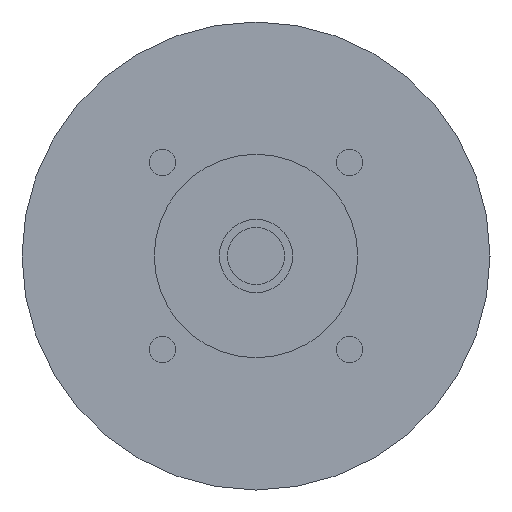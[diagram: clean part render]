
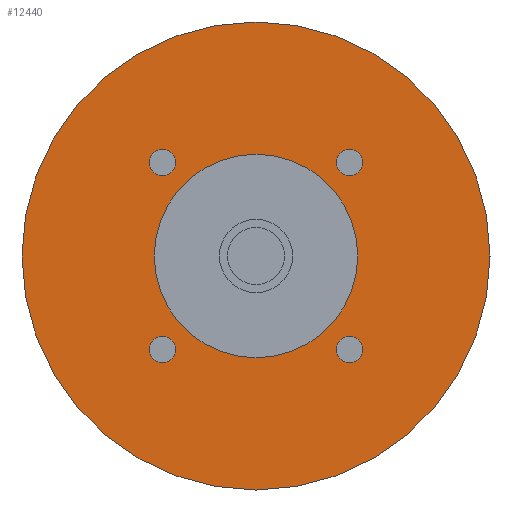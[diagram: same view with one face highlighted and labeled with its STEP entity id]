
A CAD part, left-side view. The second image highlights one B-rep face of the part: STEP entity #12440.
In plain terms, the highlighted planar face has unit normal (-1, 0, 0) as drawn and (0, 0, -1) by its records, which use the part's own axes.
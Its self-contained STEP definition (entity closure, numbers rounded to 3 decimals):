
#8840=CARTESIAN_POINT('',(57.5,0.,-47.401));
#8850=VERTEX_POINT('',#8840);
#8880=CARTESIAN_POINT('',(0.,0.,
-47.401));
#8890=DIRECTION('',(0.,0.,-1.));
#8900=DIRECTION('',(0.,-1.,0.));
#8910=AXIS2_PLACEMENT_3D('',#8880,#8890,#8900);
#8920=CIRCLE('',#8910,57.5);
#8930=CARTESIAN_POINT('',(0.,-57.5,-47.401));
#8940=VERTEX_POINT('',#8930);
#8950=EDGE_CURVE('',#8850,#8940,#8920,.T.);
#8970=CARTESIAN_POINT('',(-57.5,0.,-47.401));
#8980=VERTEX_POINT('',#8970);
#8990=EDGE_CURVE('',#8940,#8980,#8920,.T.);
#11410=CARTESIAN_POINT('',(22.981,19.731,-47.401));
#11420=VERTEX_POINT('',#11410);
#11450=CARTESIAN_POINT('',(22.981,22.981,-47.401));
#11460=DIRECTION('',(0.,0.,-1.));
#11470=DIRECTION('',(0.,1.,0.));
#11480=AXIS2_PLACEMENT_3D('',#11450,#11460,#11470);
#11490=CIRCLE('',#11480,3.25);
#11500=CARTESIAN_POINT('',(22.981,26.231,-47.401));
#11510=VERTEX_POINT('',#11500);
#11520=EDGE_CURVE('',#11510,#11420,#11490,.T.);
#11640=CARTESIAN_POINT('',(0.,0.,
-47.401));
#11650=DIRECTION('',(0.,0.,-1.));
#11660=DIRECTION('',(1.,0.,0.));
#11670=AXIS2_PLACEMENT_3D('',#11640,#11650,#11660);
#11680=PLANE('',#11670);
#11690=ORIENTED_EDGE('',*,*,#11520,.F.);
#11700=EDGE_CURVE('',#11420,#11510,#11490,.T.);
#11710=ORIENTED_EDGE('',*,*,#11700,.F.);
#11720=EDGE_LOOP('',(#11710,#11690));
#11730=FACE_BOUND('',#11720,.T.);
#11740=CARTESIAN_POINT('',(-22.981,22.981,-47.401));
#11750=DIRECTION('',(0.,0.,-1.));
#11760=DIRECTION('',(-1.,0.,0.));
#11770=AXIS2_PLACEMENT_3D('',#11740,#11750,#11760);
#11780=CIRCLE('',#11770,3.25);
#11790=CARTESIAN_POINT('',(-26.231,22.981,-47.401));
#11800=VERTEX_POINT('',#11790);
#11810=CARTESIAN_POINT('',(-19.731,22.981,-47.401));
#11820=VERTEX_POINT('',#11810);
#11830=EDGE_CURVE('',#11800,#11820,#11780,.T.);
#11840=ORIENTED_EDGE('',*,*,#11830,.F.);
#11850=EDGE_CURVE('',#11820,#11800,#11780,.T.);
#11860=ORIENTED_EDGE('',*,*,#11850,.F.);
#11870=EDGE_LOOP('',(#11860,#11840));
#11880=FACE_BOUND('',#11870,.T.);
#11890=CARTESIAN_POINT('',(-22.981,-22.981,-47.401))
;
#11900=DIRECTION('',(0.,0.,-1.));
#11910=DIRECTION('',(0.,-1.,0.));
#11920=AXIS2_PLACEMENT_3D('',#11890,#11900,#11910);
#11930=CIRCLE('',#11920,3.25);
#11940=CARTESIAN_POINT('',(-22.981,-26.231,-47.401))
;
#11950=VERTEX_POINT('',#11940);
#11960=CARTESIAN_POINT('',(-22.981,-19.731,-47.401))
;
#11970=VERTEX_POINT('',#11960);
#11980=EDGE_CURVE('',#11950,#11970,#11930,.T.);
#11990=ORIENTED_EDGE('',*,*,#11980,.F.);
#12000=EDGE_CURVE('',#11970,#11950,#11930,.T.);
#12010=ORIENTED_EDGE('',*,*,#12000,.F.);
#12020=EDGE_LOOP('',(#12010,#11990));
#12030=FACE_BOUND('',#12020,.T.);
#12040=CARTESIAN_POINT('',(0.,0.,
-47.401));
#12050=DIRECTION('',(0.,0.,1.));
#12060=DIRECTION('',(0.,1.,0.));
#12070=AXIS2_PLACEMENT_3D('',#12040,#12050,#12060);
#12080=CIRCLE('',#12070,25.);
#12090=CARTESIAN_POINT('',(-25.,0.,-47.401));
#12100=VERTEX_POINT('',#12090);
#12110=CARTESIAN_POINT('',(25.,0.,-47.401));
#12120=VERTEX_POINT('',#12110);
#12130=EDGE_CURVE('',#12100,#12120,#12080,.T.);
#12140=ORIENTED_EDGE('',*,*,#12130,.T.);
#12150=CARTESIAN_POINT('',(0.,25.,-47.401));
#12160=VERTEX_POINT('',#12150);
#12170=EDGE_CURVE('',#12160,#12100,#12080,.T.);
#12180=ORIENTED_EDGE('',*,*,#12170,.T.);
#12190=EDGE_CURVE('',#12120,#12160,#12080,.T.);
#12200=ORIENTED_EDGE('',*,*,#12190,.T.);
#12210=EDGE_LOOP('',(#12200,#12180,#12140));
#12220=FACE_BOUND('',#12210,.T.);
#12230=CARTESIAN_POINT('',(22.981,-22.981,-47.401));
#12240=DIRECTION('',(0.,0.,-1.));
#12250=DIRECTION('',(1.,0.,0.));
#12260=AXIS2_PLACEMENT_3D('',#12230,#12240,#12250);
#12270=CIRCLE('',#12260,3.25);
#12280=CARTESIAN_POINT('',(26.231,-22.981,-47.401));
#12290=VERTEX_POINT('',#12280);
#12300=CARTESIAN_POINT('',(19.731,-22.981,-47.401));
#12310=VERTEX_POINT('',#12300);
#12320=EDGE_CURVE('',#12290,#12310,#12270,.T.);
#12330=ORIENTED_EDGE('',*,*,#12320,.F.);
#12340=EDGE_CURVE('',#12310,#12290,#12270,.T.);
#12350=ORIENTED_EDGE('',*,*,#12340,.F.);
#12360=EDGE_LOOP('',(#12350,#12330));
#12370=FACE_BOUND('',#12360,.T.);
#12380=EDGE_CURVE('',#8980,#8850,#8920,.T.);
#12390=ORIENTED_EDGE('',*,*,#12380,.T.);
#12400=ORIENTED_EDGE('',*,*,#8990,.T.);
#12410=ORIENTED_EDGE('',*,*,#8950,.T.);
#12420=EDGE_LOOP('',(#12410,#12400,#12390));
#12430=FACE_OUTER_BOUND('',#12420,.T.);
#12440=ADVANCED_FACE('',(#11730,#11880,#12030,#12220,#12370,#12430),
#11680,.T.);
